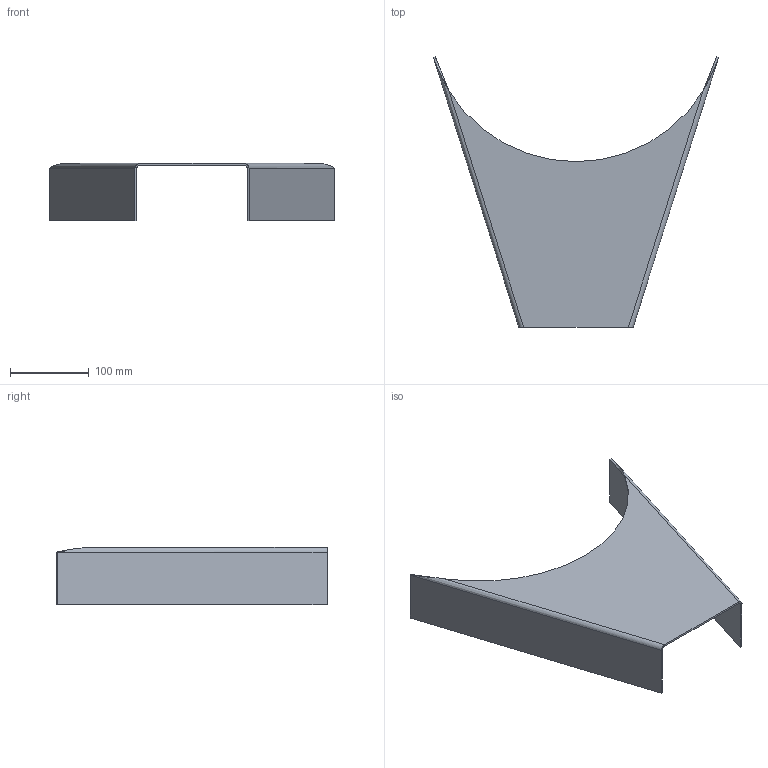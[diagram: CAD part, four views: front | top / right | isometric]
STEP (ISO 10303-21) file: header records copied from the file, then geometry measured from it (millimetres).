
FILE_DESCRIPTION (( 'STEP AP203' ), '1' );
FILE_NAME ('Demi corps gauche rep 7.STEP', '2019-02-22T08:56:34', ( '' ), ( '' ), 'SwSTEP 2.0', 'SolidWorks 2018', '' );
FILE_SCHEMA (( 'CONFIG_CONTROL_DESIGN' ));
Length unit declared in the file: millimetre
Products named in the file (1): Demi corps gauche rep 7
Bounding box: 362.23 x 343.7 x 72.5 mm (x, y, z)
Volume: 251504 mm3; surface area: 205237.1 mm2
Topology: 1 solids, 1 shells, 22 faces, 44 edges, 24 vertices
Faces by surface type: plane 13, cylinder 5, bspline 4
Entity records: 863 total; most frequent: CARTESIAN_POINT 363, ORIENTED_EDGE 88, DIRECTION 76, EDGE_CURVE 44, LINE 34, VECTOR 34, VERTEX_POINT 24, FACE_OUTER_BOUND 22
